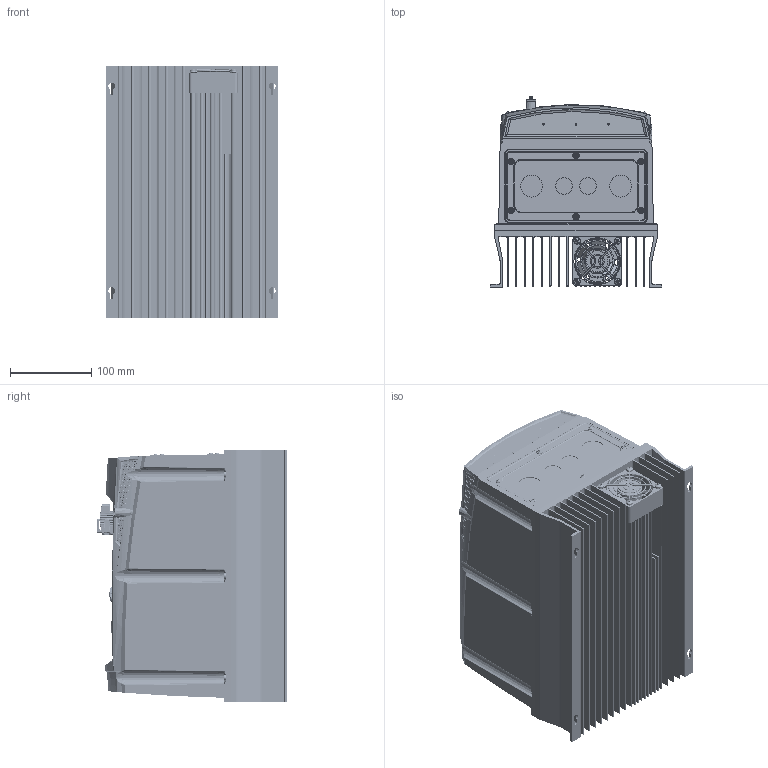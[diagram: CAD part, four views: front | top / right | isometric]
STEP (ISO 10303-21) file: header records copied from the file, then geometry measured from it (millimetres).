
FILE_DESCRIPTION (( 'STEP AP203' ), '1' );
FILE_NAME ('E3.IP66.Gen2.SIZE3.LED.Switched-Closed (ENVELOPE) (4-Hole).STEP', '2022-08-04T12:35:30', ( '' ), ( '' ), 'SwSTEP 2.0', 'SolidWorks 2022', '' );
FILE_SCHEMA (( 'CONFIG_CONTROL_DESIGN' ));
Products named in the file (1): E3.IP66.Gen2.SIZE3.LED.Switched-Closed (ENVELOPE) (4-Hole)
Bounding box: 210.5 x 235 x 310.09 mm (x, y, z)
Volume: 9131029.5 mm3; surface area: 1145547.6 mm2
Topology: 1 solids, 45 shells, 4917 faces, 13912 edges, 8924 vertices
Faces by surface type: cylinder 1202, plane 1053, bspline 976, sphere 898, cone 556, torus 232
Entity records: 204566 total; most frequent: CARTESIAN_POINT 95717, ORIENTED_EDGE 25040, DIRECTION 19771, EDGE_CURVE 12520, AXIS2_PLACEMENT_3D 8285, VERTEX_POINT 8110, EDGE_LOOP 5434, FACE_OUTER_BOUND 4904
